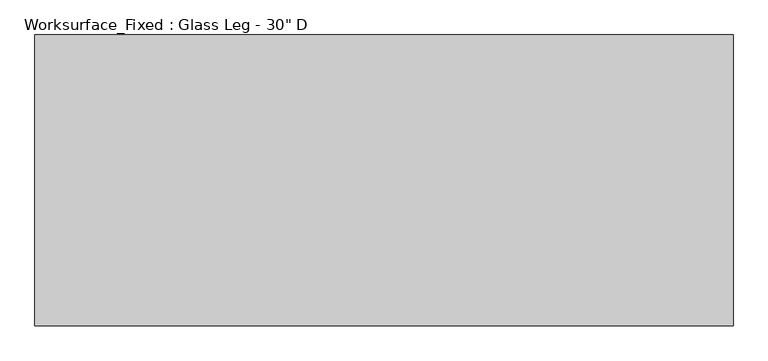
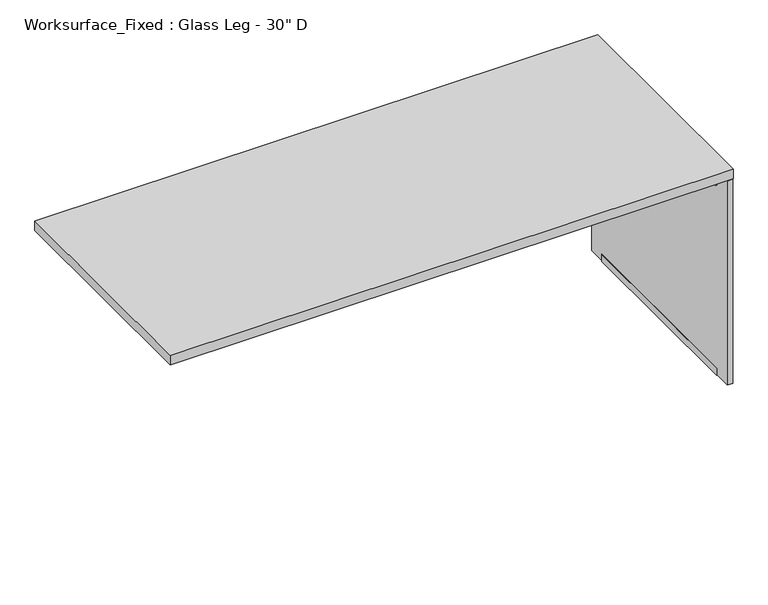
"""IFC4 building model written with IfcOpenShell, lengths in millimetres: furniture geometry."""

from ifc_helpers import new_model, si_unit, frame, origin, place, context, project, spatial, polyline, outline, extrude, source, transform, mapped, element, save


def furniture_50e25504(model_context):
    return source(origin(), model_context, "Body", "SweptSolid", [
        extrude(outline(polyline([(654.85, 1804.6851165), (654.85, 1808.1625), (704.85, 1808.1625), (704.85, 198.5886722), (677.2318516, 198.5886722), (677.2318516, 468.4636722), (670.8818516, 468.4636722), (664.8286016, 474.5169222), (664.8286016, 1794.7065149), (654.85, 1804.6851165)])), frame((0.0, 57.15, 0.0), z_axis=(0.0, 1.0, 0.0), x_axis=(0.0, 0.0, 1.0)), (0.0, 0.0, 1.0), 647.7),
        extrude(outline(polyline([(0.0, 1828.8), (23.8125, 1828.8), (23.8125, 1827.2125), (1.5875, 1827.2125), (1.5875, 1809.75), (23.8125, 1809.75), (23.8125, 1808.1625), (0.0, 1808.1625), (0.0, 1828.8)])), frame((0.0, 57.15, 0.0), z_axis=(0.0, 1.0, 0.0), x_axis=(0.0, 0.0, 1.0)), (0.0, 0.0, 1.0), 647.7),
        extrude(outline(polyline([(704.85, 1828.8), (704.85, 1808.1625), (654.85, 1808.1625), (654.85, 1809.75), (703.2625, 1809.75), (703.2625, 1827.2125), (654.85, 1827.2125), (654.85, 1828.8), (704.85, 1828.8)])), frame((0.0, 57.15, 0.0), z_axis=(0.0, 1.0, 0.0), x_axis=(0.0, 0.0, 1.0)), (0.0, 0.0, 1.0), 647.7),
        extrude(outline(polyline([(1827.2125, 762.0), (1827.2125, 0.0), (1809.75, 0.0), (1809.75, 762.0), (1827.2125, 762.0)])), frame((0.0, 0.0, 1.5875), z_axis=(0.0, 0.0, 1.0), x_axis=(1.0, 0.0, 0.0)), (0.0, 0.0, 1.0), 701.675),
        extrude(outline(polyline([(1828.8, 762.0), (1828.8, 0.0), (0.0, 0.0), (0.0, 762.0), (1828.8, 762.0)])), frame((0.0, 0.0, 704.85), z_axis=(0.0, 0.0, 1.0), x_axis=(1.0, 0.0, 0.0)), (0.0, 0.0, 1.0), 31.75),
    ])


if __name__ == "__main__":
    model = new_model("IFC4")
    model_context = context("Model", 3, world=origin())
    ifc_project = project(units=[si_unit("LENGTHUNIT", "METRE", prefix="MILLI")], contexts=[model_context])
    site = spatial("IfcSite", under=ifc_project)
    building = spatial("IfcBuilding", under=site)
    placement = place(None, origin())
    furniture_shape = furniture_50e25504(model_context)
    element("IfcFurniture", 1, ObjectType="Worksurface_Fixed : Glass Leg - 30\" D", at=placement, inside=building, context=model_context, shape_type="MappedRepresentation", body=[
        mapped(furniture_shape, transform((0.0, 0.0, 0.0), x_axis=(1.0, 0.0, 0.0), y_axis=(0.0, 1.0, 0.0), z_axis=(0.0, 0.0, 1.0))),
    ])
    save(model, "model.ifc")
